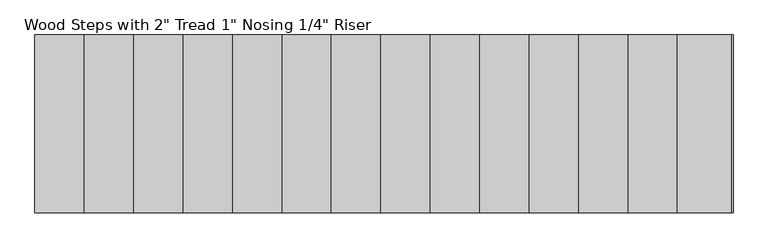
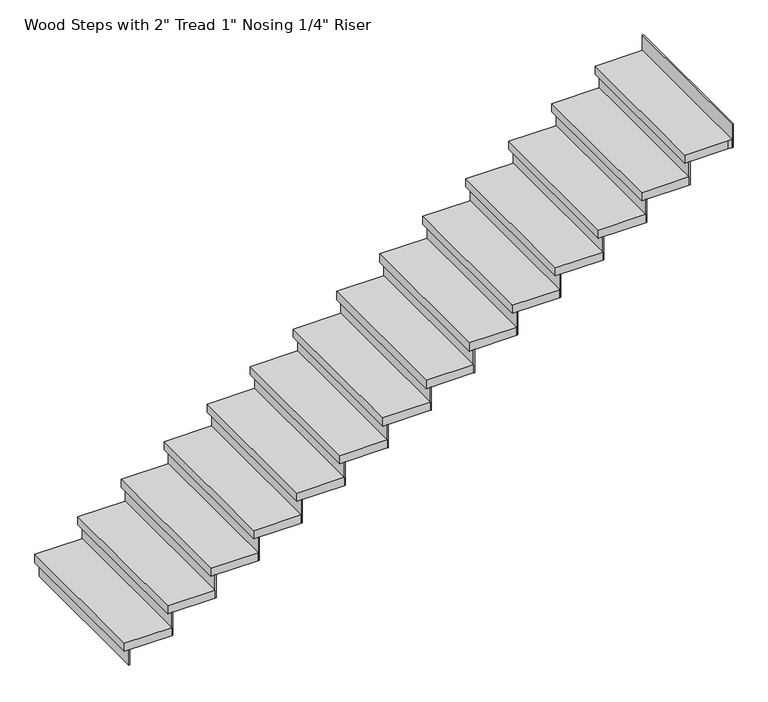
"""IFC4 building model written with IfcOpenShell, lengths in millimetres: stair flight geometry."""

from ifc_helpers import new_model, si_unit, frame, origin, origin_with_axes, place, context, project, spatial, polyline, outline, extrude, source, transform, mapped, element, save


def stair_flight_ee7a4110(model_context):
    return source(origin(), model_context, "Body", "SweptSolid", [
        extrude(outline(polyline([(-36093.92137, 31644.2177722), (-36100.27137, 31644.2177722), (-36100.27137, 32558.6177722), (-36093.92137, 32558.6177722), (-36093.92137, 31644.2177722)])), origin_with_axes(), (0.0, 0.0, 1.0), 94.3428571),
        extrude(outline(polyline([(-35846.27137, 32558.6177722), (-35846.27137, 31644.2177722), (-36125.67137, 31644.2177722), (-36125.67137, 32558.6177722), (-35846.27137, 32558.6177722)])), frame((0.0, 0.0, 94.3428571), z_axis=(0.0, 0.0, 1.0), x_axis=(1.0, 0.0, 0.0)), (0.0, 0.0, 1.0), 50.8),
        extrude(outline(polyline([(-35839.92137, 31644.2177722), (-35846.27137, 31644.2177722), (-35846.27137, 32558.6177722), (-35839.92137, 32558.6177722), (-35839.92137, 31644.2177722)])), frame((0.0, 0.0, 94.3428571), z_axis=(0.0, 0.0, 1.0), x_axis=(1.0, 0.0, 0.0)), (0.0, 0.0, 1.0), 145.1428571),
        extrude(outline(polyline([(-35592.27137, 32558.6177722), (-35592.27137, 31644.2177722), (-35871.67137, 31644.2177722), (-35871.67137, 32558.6177722), (-35592.27137, 32558.6177722)])), frame((0.0, 0.0, 239.4857143), z_axis=(0.0, 0.0, 1.0), x_axis=(1.0, 0.0, 0.0)), (0.0, 0.0, 1.0), 50.8),
        extrude(outline(polyline([(-35585.92137, 31644.2177722), (-35592.27137, 31644.2177722), (-35592.27137, 32558.6177722), (-35585.92137, 32558.6177722), (-35585.92137, 31644.2177722)])), frame((0.0, 0.0, 239.4857143), z_axis=(0.0, 0.0, 1.0), x_axis=(1.0, 0.0, 0.0)), (0.0, 0.0, 1.0), 145.1428571),
        extrude(outline(polyline([(-35338.27137, 32558.6177722), (-35338.27137, 31644.2177722), (-35617.67137, 31644.2177722), (-35617.67137, 32558.6177722), (-35338.27137, 32558.6177722)])), frame((0.0, 0.0, 384.6285714), z_axis=(0.0, 0.0, 1.0), x_axis=(1.0, 0.0, 0.0)), (0.0, 0.0, 1.0), 50.8),
        extrude(outline(polyline([(-35331.92137, 31644.2177722), (-35338.27137, 31644.2177722), (-35338.27137, 32558.6177722), (-35331.92137, 32558.6177722), (-35331.92137, 31644.2177722)])), frame((0.0, 0.0, 384.6285714), z_axis=(0.0, 0.0, 1.0), x_axis=(1.0, 0.0, 0.0)), (0.0, 0.0, 1.0), 145.1428571),
        extrude(outline(polyline([(-35084.27137, 32558.6177722), (-35084.27137, 31644.2177722), (-35363.67137, 31644.2177722), (-35363.67137, 32558.6177722), (-35084.27137, 32558.6177722)])), frame((0.0, 0.0, 529.7714286), z_axis=(0.0, 0.0, 1.0), x_axis=(1.0, 0.0, 0.0)), (0.0, 0.0, 1.0), 50.8),
        extrude(outline(polyline([(-35077.92137, 31644.2177722), (-35084.27137, 31644.2177722), (-35084.27137, 32558.6177722), (-35077.92137, 32558.6177722), (-35077.92137, 31644.2177722)])), frame((0.0, 0.0, 529.7714286), z_axis=(0.0, 0.0, 1.0), x_axis=(1.0, 0.0, 0.0)), (0.0, 0.0, 1.0), 145.1428571),
        extrude(outline(polyline([(-34830.27137, 32558.6177722), (-34830.27137, 31644.2177722), (-35109.67137, 31644.2177722), (-35109.67137, 32558.6177722), (-34830.27137, 32558.6177722)])), frame((0.0, 0.0, 674.9142857), z_axis=(0.0, 0.0, 1.0), x_axis=(1.0, 0.0, 0.0)), (0.0, 0.0, 1.0), 50.8),
        extrude(outline(polyline([(-34823.92137, 31644.2177722), (-34830.27137, 31644.2177722), (-34830.27137, 32558.6177722), (-34823.92137, 32558.6177722), (-34823.92137, 31644.2177722)])), frame((0.0, 0.0, 674.9142857), z_axis=(0.0, 0.0, 1.0), x_axis=(1.0, 0.0, 0.0)), (0.0, 0.0, 1.0), 145.1428571),
        extrude(outline(polyline([(-34576.27137, 32558.6177722), (-34576.27137, 31644.2177722), (-34855.67137, 31644.2177722), (-34855.67137, 32558.6177722), (-34576.27137, 32558.6177722)])), frame((0.0, 0.0, 820.0571429), z_axis=(0.0, 0.0, 1.0), x_axis=(1.0, 0.0, 0.0)), (0.0, 0.0, 1.0), 50.8),
        extrude(outline(polyline([(-34569.92137, 31644.2177722), (-34576.27137, 31644.2177722), (-34576.27137, 32558.6177722), (-34569.92137, 32558.6177722), (-34569.92137, 31644.2177722)])), frame((0.0, 0.0, 820.0571429), z_axis=(0.0, 0.0, 1.0), x_axis=(1.0, 0.0, 0.0)), (0.0, 0.0, 1.0), 145.1428571),
        extrude(outline(polyline([(-34322.27137, 32558.6177722), (-34322.27137, 31644.2177722), (-34601.67137, 31644.2177722), (-34601.67137, 32558.6177722), (-34322.27137, 32558.6177722)])), frame((0.0, 0.0, 965.2), z_axis=(0.0, 0.0, 1.0), x_axis=(1.0, 0.0, 0.0)), (0.0, 0.0, 1.0), 50.8),
        extrude(outline(polyline([(-34315.92137, 31644.2177722), (-34322.27137, 31644.2177722), (-34322.27137, 32558.6177722), (-34315.92137, 32558.6177722), (-34315.92137, 31644.2177722)])), frame((0.0, 0.0, 965.2), z_axis=(0.0, 0.0, 1.0), x_axis=(1.0, 0.0, 0.0)), (0.0, 0.0, 1.0), 145.1428571),
        extrude(outline(polyline([(-34068.27137, 32558.6177722), (-34068.27137, 31644.2177722), (-34347.67137, 31644.2177722), (-34347.67137, 32558.6177722), (-34068.27137, 32558.6177722)])), frame((0.0, 0.0, 1110.3428571), z_axis=(0.0, 0.0, 1.0), x_axis=(1.0, 0.0, 0.0)), (0.0, 0.0, 1.0), 50.8),
        extrude(outline(polyline([(-34061.92137, 31644.2177722), (-34068.27137, 31644.2177722), (-34068.27137, 32558.6177722), (-34061.92137, 32558.6177722), (-34061.92137, 31644.2177722)])), frame((0.0, 0.0, 1110.3428571), z_axis=(0.0, 0.0, 1.0), x_axis=(1.0, 0.0, 0.0)), (0.0, 0.0, 1.0), 145.1428571),
        extrude(outline(polyline([(-33814.27137, 32558.6177722), (-33814.27137, 31644.2177722), (-34093.67137, 31644.2177722), (-34093.67137, 32558.6177722), (-33814.27137, 32558.6177722)])), frame((0.0, 0.0, 1255.4857143), z_axis=(0.0, 0.0, 1.0), x_axis=(1.0, 0.0, 0.0)), (0.0, 0.0, 1.0), 50.8),
        extrude(outline(polyline([(-33807.92137, 31644.2177722), (-33814.27137, 31644.2177722), (-33814.27137, 32558.6177722), (-33807.92137, 32558.6177722), (-33807.92137, 31644.2177722)])), frame((0.0, 0.0, 1255.4857143), z_axis=(0.0, 0.0, 1.0), x_axis=(1.0, 0.0, 0.0)), (0.0, 0.0, 1.0), 145.1428571),
        extrude(outline(polyline([(-33560.27137, 32558.6177722), (-33560.27137, 31644.2177722), (-33839.67137, 31644.2177722), (-33839.67137, 32558.6177722), (-33560.27137, 32558.6177722)])), frame((0.0, 0.0, 1400.6285714), z_axis=(0.0, 0.0, 1.0), x_axis=(1.0, 0.0, 0.0)), (0.0, 0.0, 1.0), 50.8),
        extrude(outline(polyline([(-33553.92137, 31644.2177722), (-33560.27137, 31644.2177722), (-33560.27137, 32558.6177722), (-33553.92137, 32558.6177722), (-33553.92137, 31644.2177722)])), frame((0.0, 0.0, 1400.6285714), z_axis=(0.0, 0.0, 1.0), x_axis=(1.0, 0.0, 0.0)), (0.0, 0.0, 1.0), 145.1428571),
        extrude(outline(polyline([(-33306.27137, 32558.6177722), (-33306.27137, 31644.2177722), (-33585.67137, 31644.2177722), (-33585.67137, 32558.6177722), (-33306.27137, 32558.6177722)])), frame((0.0, 0.0, 1545.7714286), z_axis=(0.0, 0.0, 1.0), x_axis=(1.0, 0.0, 0.0)), (0.0, 0.0, 1.0), 50.8),
        extrude(outline(polyline([(-33299.92137, 31644.2177722), (-33306.27137, 31644.2177722), (-33306.27137, 32558.6177722), (-33299.92137, 32558.6177722), (-33299.92137, 31644.2177722)])), frame((0.0, 0.0, 1545.7714286), z_axis=(0.0, 0.0, 1.0), x_axis=(1.0, 0.0, 0.0)), (0.0, 0.0, 1.0), 145.1428571),
        extrude(outline(polyline([(-33052.27137, 32558.6177722), (-33052.27137, 31644.2177722), (-33331.67137, 31644.2177722), (-33331.67137, 32558.6177722), (-33052.27137, 32558.6177722)])), frame((0.0, 0.0, 1690.9142857), z_axis=(0.0, 0.0, 1.0), x_axis=(1.0, 0.0, 0.0)), (0.0, 0.0, 1.0), 50.8),
        extrude(outline(polyline([(-33045.92137, 31644.2177722), (-33052.27137, 31644.2177722), (-33052.27137, 32558.6177722), (-33045.92137, 32558.6177722), (-33045.92137, 31644.2177722)])), frame((0.0, 0.0, 1690.9142857), z_axis=(0.0, 0.0, 1.0), x_axis=(1.0, 0.0, 0.0)), (0.0, 0.0, 1.0), 145.1428571),
        extrude(outline(polyline([(-32798.27137, 32558.6177722), (-32798.27137, 31644.2177722), (-33077.67137, 31644.2177722), (-33077.67137, 32558.6177722), (-32798.27137, 32558.6177722)])), frame((0.0, 0.0, 1836.0571429), z_axis=(0.0, 0.0, 1.0), x_axis=(1.0, 0.0, 0.0)), (0.0, 0.0, 1.0), 50.8),
        extrude(outline(polyline([(-32537.92137, 31644.2177722), (-32544.27137, 31644.2177722), (-32544.27137, 32558.6177722), (-32537.92137, 32558.6177722), (-32537.92137, 31644.2177722)])), frame((0.0, 0.0, 1981.2), z_axis=(0.0, 0.0, 1.0), x_axis=(1.0, 0.0, 0.0)), (0.0, 0.0, 1.0), 145.1428571),
        extrude(outline(polyline([(-32791.92137, 31644.2177722), (-32798.27137, 31644.2177722), (-32798.27137, 32558.6177722), (-32791.92137, 32558.6177722), (-32791.92137, 31644.2177722)])), frame((0.0, 0.0, 1836.0571429), z_axis=(0.0, 0.0, 1.0), x_axis=(1.0, 0.0, 0.0)), (0.0, 0.0, 1.0), 145.1428571),
        extrude(outline(polyline([(-32544.27137, 32558.6177722), (-32544.27137, 31644.2177722), (-32569.67137, 31644.2177722), (-32823.67137, 31644.2177722), (-32823.67137, 32558.6177722), (-32569.67137, 32558.6177722), (-32544.27137, 32558.6177722)])), frame((0.0, 0.0, 1981.2), z_axis=(0.0, 0.0, 1.0), x_axis=(1.0, 0.0, 0.0)), (0.0, 0.0, 1.0), 50.8),
    ])


if __name__ == "__main__":
    model = new_model("IFC4")
    model_context = context("Model", 3, world=origin())
    ifc_project = project(units=[si_unit("LENGTHUNIT", "METRE", prefix="MILLI")], contexts=[model_context])
    site = spatial("IfcSite", under=ifc_project)
    building = spatial("IfcBuilding", under=site)
    placement = place(None, origin())
    stair_flight_shape = stair_flight_ee7a4110(model_context)
    element("IfcStairFlight", 1, ObjectType="Wood Steps with 2\" Tread 1\" Nosing 1/4\" Riser", at=placement, inside=building, context=model_context, shape_type="MappedRepresentation", body=[
        mapped(stair_flight_shape, transform((0.0, 0.0, 0.0), x_axis=(1.0, 0.0, 0.0), y_axis=(0.0, 1.0, 0.0), z_axis=(0.0, 0.0, 1.0))),
    ])
    save(model, "model.ifc")
